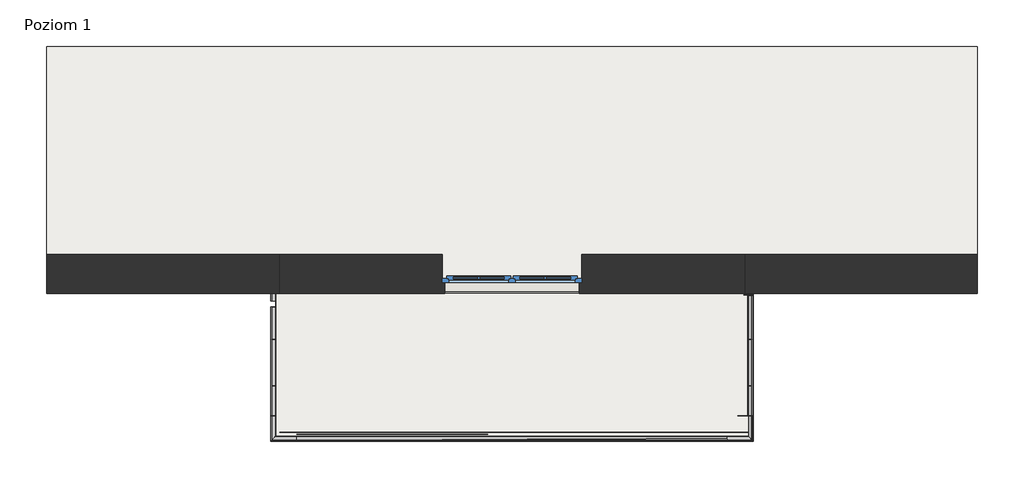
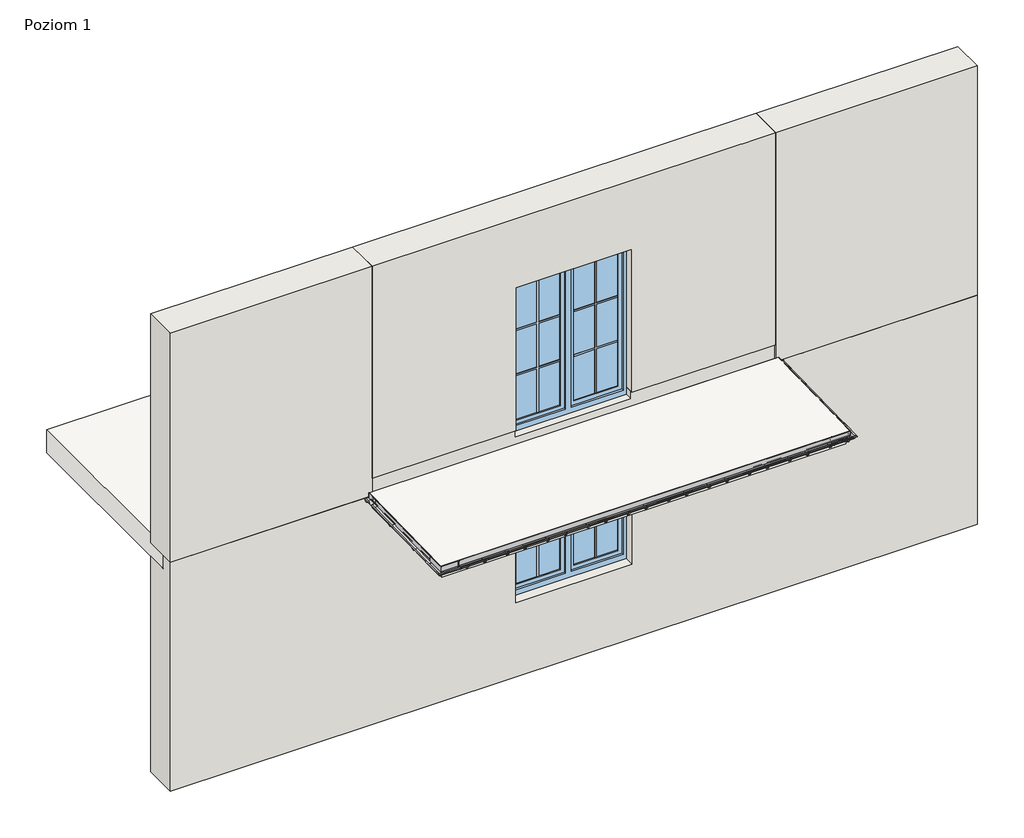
# One storey, part 1 of 4: 19 proxies, 5 walls, 3 slabs, 2 windows.
"""IFC4 building model written with IfcOpenShell, lengths in millimetres."""

from ifc_helpers import new_model, si_unit, frame, origin, place, context, project, spatial, polyline, outline, extrude, faceted_brep, transform, mapped, element, save
from components import generic_models_ec639326, generic_models_5d572d7a, generic_models_61f85244, generic_models_23ee7866, rynna_alu_r75_rynna_alu_r75_09d3fe56, rynna_alu_r75_rynna_alu_r75_ab9fa133, rynna_alu_r75_rynna_alu_r75_d5d98ae5, rynna_alu_r75_rynna_alu_r75_86e53b27, rynna_alu_r75_rynna_alu_r75_84c9ecab, rynna_alu_r75_rynna_alu_r75_d7d200d3, w30r_a8886554, w30r_bc3f7cf0, w30r_80883098, w30r_3a325fd7, w30r_4fe4cb9a, w30r_29956e02, w30r_471fe23f, w30r_580a4935, w30r_a8d028da, w30r_1e472981, window_150x150_51b7f79a, window_150x200_12b14935

model = new_model("IFC4")

# Units and contexts
model_context = context("Model", 3, world=origin())
ifc_project = project(units=[si_unit("LENGTHUNIT", "METRE", prefix="MILLI")], contexts=[model_context])

# Site, building, storey
site = spatial("IfcSite", under=ifc_project)
building = spatial("IfcBuilding", under=site)
storey = spatial("IfcBuildingStorey", under=building, Name="Poziom 1", Elevation=0.0)

# Proxies
placement = place(None, origin())
generic_models_shape = generic_models_ec639326(model_context)
element("IfcBuildingElementProxy", 1, Name="Odbojnik - OPW30R : Odbojnik - OPW30R", ObjectType="Odbojnik - OPW30R : Odbojnik - OPW30R", at=placement, inside=storey, context=model_context, shape_type="MappedRepresentation", body=[
    mapped(generic_models_shape, transform((-49671.8078512, 2486.8060813, -208.2583439), x_axis=(0.0, -0.9997639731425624, -0.021725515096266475), y_axis=(1.0000000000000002, 0.0, 0.0), z_axis=(0.0, -0.021725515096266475, 0.9997639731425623))),
])
element("IfcBuildingElementProxy", 2, Name="Odbojnik - OPW30R : Odbojnik - OPW30R", ObjectType="Odbojnik - OPW30R : Odbojnik - OPW30R", at=placement, inside=storey, context=model_context, shape_type="MappedRepresentation", body=[
    mapped(generic_models_shape, transform((-49671.9297926, 2333.1342418, -195.686409), x_axis=(0.0, -0.9997639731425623, -0.021725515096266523), y_axis=(1.0, 0.0, 0.0), z_axis=(0.0, -0.021725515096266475, 0.9997639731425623))),
])
generic_models_2_shape = generic_models_5d572d7a(model_context)
element("IfcBuildingElementProxy", 3, Name="Odbojnik przyścienny rynny : Odbojnik przyścienny rynny", ObjectType="Odbojnik przyścienny rynny : Odbojnik przyścienny rynny", at=placement, inside=storey, context=model_context, shape_type="MappedRepresentation", body=[
    mapped(generic_models_2_shape, transform((-44662.3088169, 2315.5114624, -183.1296888), x_axis=(0.0, 0.9997639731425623, 0.02172551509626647), y_axis=(-1.0, 0.0, 0.0), z_axis=(0.0, -0.021725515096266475, 0.9997639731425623))),
])
generic_models_3_shape = generic_models_61f85244(model_context)
element("IfcBuildingElementProxy", 4, Name="Odbojnik - OPW30R : Odbojnik - OPW30R", ObjectType="Odbojnik - OPW30R : Odbojnik - OPW30R", at=placement, inside=storey, context=model_context, shape_type="MappedRepresentation", body=[
    mapped(generic_models_3_shape, transform((-44729.5927141, 2315.7925172, -196.0632559), x_axis=(0.0, -0.9997639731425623, -0.02172551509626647), y_axis=(1.0, 0.0, 0.0), z_axis=(0.0, -0.021725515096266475, 0.9997639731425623))),
])
generic_models_4_shape = generic_models_23ee7866(model_context)
element("IfcBuildingElementProxy", 5, Name="Odbojnik przyścienny rynny : Odbojnik przyścienny rynny", ObjectType="Odbojnik przyścienny rynny : Odbojnik przyścienny rynny", at=placement, inside=storey, context=model_context, shape_type="MappedRepresentation", body=[
    mapped(generic_models_4_shape, transform((-49739.0917484, 2486.5250265, -195.3247768), x_axis=(0.0, 0.9997639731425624, 0.021725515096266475), y_axis=(-1.0000000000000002, 0.0, 0.0), z_axis=(0.0, -0.021725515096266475, 0.9997639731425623))),
])
element("IfcBuildingElementProxy", 6, Name="Odbojnik przyścienny rynny : Odbojnik przyścienny rynny", ObjectType="Odbojnik przyścienny rynny : Odbojnik przyścienny rynny", at=placement, inside=storey, context=model_context, shape_type="MappedRepresentation", body=[
    mapped(generic_models_4_shape, transform((-49739.2136899, 2332.853187, -182.7528419), x_axis=(0.0, 0.9997639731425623, 0.021725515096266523), y_axis=(-1.0, 0.0, 0.0), z_axis=(0.0, -0.021725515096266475, 0.9997639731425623))),
])
rynna_alu_r75_rynna_alu_r75_shape = rynna_alu_r75_rynna_alu_r75_09d3fe56(model_context)
element("IfcBuildingElementProxy", 7, Name="Rynna ALU R75 : Rynna ALU R75", ObjectType="Rynna ALU R75 : Rynna ALU R75", at=placement, inside=storey, context=model_context, shape_type="MappedRepresentation", body=[
    mapped(rynna_alu_r75_rynna_alu_r75_shape, transform((-47089.7513224, 830.0081496, -157.4212703), x_axis=(1.0, 0.0, 0.0), y_axis=(0.0, 0.9997639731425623, 0.021725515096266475), z_axis=(0.0, -0.021725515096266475, 0.9997639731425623))),
])
rynna_alu_r75_rynna_alu_r75_2_shape = rynna_alu_r75_rynna_alu_r75_ab9fa133(model_context)
element("IfcBuildingElementProxy", 8, Name="Rynna ALU R75 : Rynna ALU R75", ObjectType="Rynna ALU R75 : Rynna ALU R75", at=placement, inside=storey, context=model_context, shape_type="MappedRepresentation", body=[
    mapped(rynna_alu_r75_rynna_alu_r75_2_shape, transform((-44699.0311826, 1664.8781341, -139.2790078), x_axis=(0.0, 0.9997639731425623, 0.02172551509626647), y_axis=(-1.0, 0.0, 0.0), z_axis=(0.0, -0.021725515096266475, 0.9997639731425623))),
])
rynna_alu_r75_rynna_alu_r75_3_shape = rynna_alu_r75_rynna_alu_r75_d5d98ae5(model_context)
element("IfcBuildingElementProxy", 9, Name="Rynna ALU R75 : Rynna ALU R75", ObjectType="Rynna ALU R75 : Rynna ALU R75", at=placement, inside=storey, context=model_context, shape_type="MappedRepresentation", body=[
    mapped(rynna_alu_r75_rynna_alu_r75_3_shape, transform((-49702.3693827, 2449.5739013, -138.1383862), x_axis=(0.0, 0.9997639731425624, 0.021725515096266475), y_axis=(-1.0000000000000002, 0.0, 0.0), z_axis=(0.0, -0.021725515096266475, 0.9997639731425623))),
])
rynna_alu_r75_rynna_alu_r75_4_shape = rynna_alu_r75_rynna_alu_r75_86e53b27(model_context)
element("IfcBuildingElementProxy", 10, Name="Rynna ALU R75 : Rynna ALU R75", ObjectType="Rynna ALU R75 : Rynna ALU R75", at=placement, inside=storey, context=model_context, shape_type="MappedRepresentation", body=[
    mapped(rynna_alu_r75_rynna_alu_r75_4_shape, transform((-49702.5256327, 1601.0661115, -140.6656841), x_axis=(0.0, 0.9997639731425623, 0.021725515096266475), y_axis=(-1.0, 0.0, 0.0), z_axis=(0.0, -0.021725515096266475, 0.9997639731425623))),
])
rynna_alu_r75_rynna_alu_r75_5_shape = rynna_alu_r75_rynna_alu_r75_84c9ecab(model_context)
element("IfcBuildingElementProxy", 11, Name="Rynna ALU R75 : Rynna ALU R75", ObjectType="Rynna ALU R75 : Rynna ALU R75", at=placement, inside=storey, context=model_context, shape_type="MappedRepresentation", body=[
    mapped(rynna_alu_r75_rynna_alu_r75_5_shape, transform((-49702.4913242, 2290.9032419, -125.6750789), x_axis=(0.0, 0.9997639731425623, 0.021725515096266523), y_axis=(-1.0, 0.0, 0.0), z_axis=(0.0, -0.021725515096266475, 0.9997639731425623))),
])
rynna_alu_r75_rynna_alu_r75_6_shape = rynna_alu_r75_rynna_alu_r75_d7d200d3(model_context)
element("IfcBuildingElementProxy", 12, Name="Rynna ALU R75 : Rynna ALU R75", ObjectType="Rynna ALU R75 : Rynna ALU R75", at=placement, inside=storey, context=model_context, shape_type="MappedRepresentation", body=[
    mapped(rynna_alu_r75_rynna_alu_r75_6_shape, transform((-47200.3710311, 830.4035423, -157.4126781), x_axis=(0.9999999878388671, 0.00015591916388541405, 3.3882238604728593e-06), y_axis=(-0.00015595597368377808, 0.9997639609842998, 0.0217255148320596), z_axis=(0.0, -0.021725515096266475, 0.9997639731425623))),
])
w30r_shape = w30r_a8886554(model_context)
w30r_2_shape = w30r_bc3f7cf0(model_context)
w30r_3_shape = w30r_80883098(model_context)
element("IfcBuildingElementProxy", 13, Name="W30R Profil okapowy prosty z rynną : W30R", ObjectType="W30R Profil okapowy prosty z rynną : W30R", at=placement, inside=storey, context=model_context, shape_type="MappedRepresentation", body=[
    mapped(w30r_shape, transform((-49517.2513224, 795.2031655, -109.7), x_axis=(1.0, 0.0, 0.0), y_axis=(0.0, 0.9997639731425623, 0.021725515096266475), z_axis=(0.0, -0.021725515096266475, 0.9997639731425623))),
    mapped(w30r_2_shape, transform((-49517.2513224, 795.2031655, -109.7), x_axis=(1.0, 0.0, 0.0), y_axis=(0.0, 0.9997639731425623, 0.021725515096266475), z_axis=(0.0, -0.021725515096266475, 0.9997639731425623))),
    mapped(w30r_3_shape, transform((-49517.2513224, 795.2031655, -109.7), x_axis=(1.0, 0.0, 0.0), y_axis=(0.0, 0.9997639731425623, 0.021725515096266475), z_axis=(0.0, -0.021725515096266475, 0.9997639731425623))),
])
w30r_4_shape = w30r_3a325fd7(model_context)
element("IfcBuildingElementProxy", 14, Name="W30R Profil okapowy prosty z rynną : W30R", ObjectType="W30R Profil okapowy prosty z rynną : W30R", at=placement, inside=storey, context=model_context, shape_type="MappedRepresentation", body=[
    mapped(w30r_4_shape, transform((-44665.2711826, 1015.1512396, -104.9203867), x_axis=(0.0, 0.9997639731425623, 0.02172551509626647), y_axis=(-1.0, 0.0, 0.0), z_axis=(0.0, -0.021725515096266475, 0.9997639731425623))),
])
w30r_5_shape = w30r_4fe4cb9a(model_context)
element("IfcBuildingElementProxy", 15, Name="W30R Profil okapowy prosty z rynną : W30R", ObjectType="W30R Profil okapowy prosty z rynną : W30R", at=placement, inside=storey, context=model_context, shape_type="MappedRepresentation", body=[
    mapped(w30r_5_shape, transform((-49736.2856327, 1015.1512369, -104.9203867), x_axis=(0.0, 0.9997639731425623, 0.021725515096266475), y_axis=(-1.0, 0.0, 0.0), z_axis=(0.0, -0.021725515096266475, 0.9997639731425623))),
])
w30r_6_shape = w30r_29956e02(model_context)
element("IfcBuildingElementProxy", 16, Name="W30R Profil okapowy prosty z rynną : W30R", ObjectType="W30R Profil okapowy prosty z rynną : W30R", at=placement, inside=storey, context=model_context, shape_type="MappedRepresentation", body=[
    mapped(w30r_6_shape, transform((-49736.2513242, 2249.8597306, -78.0893759), x_axis=(0.0, 0.9997639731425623, 0.021725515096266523), y_axis=(-1.0, 0.0, 0.0), z_axis=(0.0, -0.021725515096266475, 0.9997639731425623))),
])
w30r_7_shape = w30r_471fe23f(model_context)
element("IfcBuildingElementProxy", 17, Name="W30R Profil okapowy prosty z rynną : W30R", ObjectType="W30R Profil okapowy prosty z rynną : W30R", at=placement, inside=storey, context=model_context, shape_type="MappedRepresentation", body=[
    mapped(w30r_7_shape, transform((-49736.1293827, 2413.5292098, -90.4440556), x_axis=(0.0, 0.9997639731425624, 0.021725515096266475), y_axis=(-1.0000000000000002, 0.0, 0.0), z_axis=(0.0, -0.021725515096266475, 0.9997639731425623))),
])
w30r_8_shape = w30r_580a4935(model_context)
element("IfcBuildingElementProxy", 18, Name="W30R Profil okapowy prosty z rynną : W30R", ObjectType="W30R Profil okapowy prosty z rynną : W30R", at=placement, inside=storey, context=model_context, shape_type="MappedRepresentation", body=[
    mapped(w30r_8_shape, transform((-49736.2856327, 2184.8750814, -79.5015342), x_axis=(0.0005278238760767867, 0.9997638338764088, 0.021725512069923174), y_axis=(-0.9999998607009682, 0.0005276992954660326, 1.1467245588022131e-05), z_axis=(0.0, -0.021725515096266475, 0.9997639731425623))),
])
w30r_9_shape = w30r_a8d028da(model_context)
w30r_10_shape = w30r_1e472981(model_context)
element("IfcBuildingElementProxy", 19, Name="W30R Profil okapowy prosty z rynną : W30R", ObjectType="W30R Profil okapowy prosty z rynną : W30R", at=placement, inside=storey, context=model_context, shape_type="MappedRepresentation", body=[
    mapped(w30r_shape, transform((-49736.2513224, 795.2031655, -109.7), x_axis=(0.9999999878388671, 0.00015591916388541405, 3.3882238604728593e-06), y_axis=(-0.00015595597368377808, 0.9997639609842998, 0.0217255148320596), z_axis=(0.0, -0.021725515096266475, 0.9997639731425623))),
    mapped(w30r_2_shape, transform((-49736.2513224, 795.2031655, -109.7), x_axis=(0.9999999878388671, 0.00015591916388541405, 3.3882238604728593e-06), y_axis=(-0.00015595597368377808, 0.9997639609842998, 0.0217255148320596), z_axis=(0.0, -0.021725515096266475, 0.9997639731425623))),
    mapped(w30r_9_shape, transform((-49736.2513224, 795.2031655, -109.7), x_axis=(0.9999999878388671, 0.00015591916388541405, 3.3882238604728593e-06), y_axis=(-0.00015595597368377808, 0.9997639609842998, 0.0217255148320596), z_axis=(0.0, -0.021725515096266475, 0.9997639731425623))),
    mapped(w30r_10_shape, transform((-49736.2513224, 795.2031655, -109.7), x_axis=(0.9999999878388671, 0.00015591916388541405, 3.3882238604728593e-06), y_axis=(-0.00015595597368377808, 0.9997639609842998, 0.0217255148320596), z_axis=(0.0, -0.021725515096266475, 0.9997639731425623))),
])

# Slabs
element("IfcSlab", 20, ObjectType="Balkon - wykończenie - posadzka ceramiczna", at=placement, inside=storey, context=model_context, shape_type="SweptSolid", body=[
    extrude(outline(polyline([(795.2031655, -125.7), (795.2031655, -109.7), (2332.2031655, -76.3), (2332.2031655, -92.3), (795.2031655, -125.7)])), frame((-49736.2513224, 0.0, 0.0), z_axis=(1.0, 0.0, 0.0), x_axis=(0.0, 1.0, 0.0)), (0.0, 0.0, 1.0), 5074.0),
])
element("IfcSlab", 21, ObjectType="Balkon - konstrukcja", at=placement, inside=storey, context=model_context, shape_type="Brep", body=[
    faceted_brep([(-49699.2513224, 832.2031655, -285.0), (-49699.2513224, 2332.2031655, -285.0), (-49699.2513224, 2440.2031655, -285.0), (-44699.2513224, 2440.2031655, -285.0), (-44699.2513224, 2332.2031655, -285.0), (-44699.2513224, 832.2031655, -285.0), (-49699.2513224, 832.2031655, -125.0), (-49699.2513224, 2354.2031655, -94.0488806), (-49699.2513224, 2440.2031655, -92.3), (-49699.2513224, 2440.2031655, -125.0), (-44699.2513224, 2440.2031655, -92.3), (-44699.2513224, 2440.2031655, -125.0), (-44699.2513224, 832.2031655, -125.0), (-44699.2513224, 2354.2031655, -94.0488806)], [[[0, 1, 2, 3, 4, 5]], [[2, 1, 0, 6, 7, 8, 9]], [[3, 2, 9, 8, 10, 11]], [[0, 5, 12, 6]], [[5, 4, 3, 11, 10, 13, 12]], [[12, 13, 10, 8, 7, 6]]]),
])
element("IfcSlab", 22, ObjectType="Strop", at=placement, inside=storey, context=model_context, shape_type="Brep", body=[
    faceted_brep([(-42199.2513224, 2487.2031655, -300.0), (-52199.2513224, 2487.2031655, -300.0), (-52199.2513224, 2752.2031655, -300.0), (-52199.2513224, 4987.2031655, -300.0), (-42199.2513224, 4987.2031655, -300.0), (-42199.2513224, 2752.2031655, -300.0), (-42199.2513224, 2487.2031655, 0.0), (-42199.2513224, 4987.2031655, 0.0), (-52199.2513224, 4987.2031655, 0.0), (-52199.2513224, 2487.2031655, 0.0), (-49699.2513224, 2487.2031655, 0.0), (-47949.2513224, 2487.2031655, 0.0), (-46449.2513224, 2487.2031655, 0.0), (-44699.2513224, 2487.2031655, 0.0), (-42199.2513224, 2487.2031655, -125.0), (-52199.2513224, 2487.2031655, -125.0)], [[[0, 1, 2, 3, 4, 5]], [[6, 7, 8, 9, 10, 11, 12, 13]], [[1, 0, 14, 6, 13, 12, 11, 10, 9, 15]], [[3, 2, 1, 15, 9, 8]], [[4, 3, 8, 7]], [[0, 5, 4, 7, 6, 14]]]),
])

# Walls
element("IfcWall", 23, ObjectType="Porotherm P+W 25 + o15 + t", at=placement, inside=storey, context=model_context, shape_type="Brep", body=[
    faceted_brep([(-52199.2513224, 2332.2031655, -3125.0), (-42199.2513224, 2332.2031655, -3125.0), (-42199.2513224, 2332.2031655, -125.0), (-44699.2513224, 2332.2031655, -125.0), (-44699.2513224, 2332.2031655, -285.0), (-49699.2513224, 2332.2031655, -285.0), (-49699.2513224, 2332.2031655, -125.0), (-52199.2513224, 2332.2031655, -125.0), (-46479.2513224, 2332.2031655, -680.0), (-46479.2513224, 2332.2031655, -2150.0), (-47919.2513224, 2332.2031655, -2150.0), (-47919.2513224, 2332.2031655, -680.0), (-42199.2513224, 2752.2031655, -3125.0), (-52199.2513224, 2752.2031655, -3125.0), (-52199.2513224, 2752.2031655, -300.0), (-42199.2513224, 2752.2031655, -300.0), (-46449.2513224, 2752.2031655, -2150.0), (-46449.2513224, 2752.2031655, -650.0), (-47949.2513224, 2752.2031655, -650.0), (-47949.2513224, 2752.2031655, -2150.0), (-42199.2513224, 2487.2031655, -300.0), (-42199.2513224, 2487.2031655, -125.0), (-44699.2513224, 2487.2031655, -125.0), (-49699.2513224, 2487.2031655, -125.0), (-52199.2513224, 2487.2031655, -125.0), (-49699.2513224, 2440.2031655, -125.0), (-44699.2513224, 2440.2031655, -125.0), (-52199.2513224, 2487.2031655, -300.0), (-46449.2513224, 2452.2031655, -650.0), (-46449.2513224, 2452.2031655, -2150.0), (-46479.2513224, 2452.2031655, -680.0), (-46479.2513224, 2452.2031655, -2150.0), (-44699.2513224, 2440.2031655, -285.0), (-49699.2513224, 2440.2031655, -285.0), (-47949.2513224, 2452.2031655, -650.0), (-47949.2513224, 2452.2031655, -2150.0), (-47919.2513224, 2452.2031655, -2150.0), (-47919.2513224, 2452.2031655, -680.0)], [[[0, 1, 2, 3, 4, 5, 6, 7], [8, 9, 10, 11]], [[12, 13, 14, 15], [16, 17, 18, 19]], [[1, 0, 13, 12]], [[2, 1, 12, 15, 20, 21]], [[2, 21, 22, 23, 24, 7, 6, 25, 26, 3]], [[0, 7, 24, 27, 14, 13]], [[28, 17, 16, 29]], [[8, 30, 31, 9]], [[27, 20, 15, 14]], [[20, 27, 24, 23, 22, 21]], [[32, 33, 5, 4]], [[5, 33, 25, 6]], [[33, 32, 26, 25]], [[32, 4, 3, 26]], [[17, 28, 34, 18]], [[29, 16, 19, 35, 36, 10, 9, 31]], [[34, 28, 29, 31, 30, 37, 36, 35]], [[34, 35, 19, 18]], [[30, 8, 11, 37]], [[10, 36, 37, 11]]]),
])
element("IfcWall", 24, ObjectType="Porotherm P+W 25 + o15 + t", at=placement, inside=storey, context=model_context, shape_type="Brep", body=[
    faceted_brep([(-52199.2513224, 2332.2031655, -125.0), (-49699.2513224, 2332.2031655, -125.0), (-49699.2513224, 2332.2031655, 100.0), (-49699.2513224, 2332.2031655, 2875.0), (-52199.2513224, 2332.2031655, 2875.0), (-52199.2513224, 2752.2031655, -125.0), (-52199.2513224, 2752.2031655, 2875.0), (-49699.2513224, 2752.2031655, 2875.0), (-49699.2513224, 2752.2031655, 100.0), (-49699.2513224, 2752.2031655, 0.0), (-49699.2513224, 2752.2031655, -125.0), (-52199.2513224, 2487.2031655, -125.0), (-49699.2513224, 2487.2031655, -125.0), (-49699.2513224, 2440.2031655, -125.0)], [[[0, 1, 2, 3, 4]], [[5, 6, 7, 8, 9, 10]], [[1, 0, 11, 5, 10, 12, 13]], [[4, 3, 7, 6]], [[0, 4, 6, 5, 11]], [[1, 13, 12, 10, 9, 8, 7, 3, 2]]]),
])
element("IfcWall", 25, ObjectType="Porotherm P+W 25 + o15 + t", at=placement, inside=storey, context=model_context, shape_type="Brep", body=[
    faceted_brep([(-44699.2513224, 2332.2031655, 2875.0), (-44699.2513224, 2332.2031655, 100.0), (-44699.2513224, 2332.2031655, -125.0), (-42199.2513224, 2332.2031655, -125.0), (-42199.2513224, 2332.2031655, 2875.0), (-44699.2513224, 2752.2031655, -125.0), (-44699.2513224, 2752.2031655, 0.0), (-44699.2513224, 2752.2031655, 100.0), (-44699.2513224, 2752.2031655, 2875.0), (-42199.2513224, 2752.2031655, 2875.0), (-42199.2513224, 2752.2031655, -125.0), (-44699.2513224, 2440.2031655, -125.0), (-44699.2513224, 2487.2031655, -125.0), (-42199.2513224, 2487.2031655, -125.0)], [[[0, 1, 2, 3, 4]], [[5, 6, 7, 8, 9, 10]], [[3, 2, 11, 12, 5, 10, 13]], [[4, 3, 13, 10, 9]], [[0, 4, 9, 8]], [[0, 8, 7, 6, 5, 12, 11, 2, 1]]]),
])
element("IfcWall", 26, ObjectType="Porotherm P+W 25 + o12 + pł ceramiczne", at=placement, inside=storey, context=model_context, shape_type="Brep", body=[
    faceted_brep([(-44699.2513224, 2354.2031655, 100.0), (-46479.2513224, 2354.2031655, 100.0), (-46479.2513224, 2354.2031655, 0.0), (-47919.2513224, 2354.2031655, 0.0), (-47919.2513224, 2354.2031655, 100.0), (-49699.2513224, 2354.2031655, 100.0), (-49699.2513224, 2354.2031655, -94.0488806), (-44699.2513224, 2354.2031655, -94.0488806), (-49699.2513224, 2752.2031655, 0.0), (-49699.2513224, 2752.2031655, 100.0), (-47949.2513224, 2752.2031655, 100.0), (-47949.2513224, 2752.2031655, 0.0), (-44699.2513224, 2752.2031655, 100.0), (-44699.2513224, 2752.2031655, 0.0), (-46449.2513224, 2752.2031655, 0.0), (-46449.2513224, 2752.2031655, 100.0), (-49699.2513224, 2487.2031655, -125.0), (-44699.2513224, 2487.2031655, -125.0), (-44699.2513224, 2440.2031655, -125.0), (-49699.2513224, 2440.2031655, -125.0), (-44699.2513224, 2440.2031655, -92.3), (-44699.2513224, 2487.2031655, 0.0), (-46449.2513224, 2452.2031655, 100.0), (-46479.2513224, 2452.2031655, 100.0), (-47919.2513224, 2452.2031655, 100.0), (-47949.2513224, 2452.2031655, 100.0), (-49699.2513224, 2487.2031655, 0.0), (-49699.2513224, 2440.2031655, -92.3), (-47949.2513224, 2487.2031655, 0.0), (-46449.2513224, 2487.2031655, 0.0), (-47949.2513224, 2452.2031655, 0.0), (-47919.2513224, 2452.2031655, 0.0), (-46479.2513224, 2452.2031655, 0.0), (-46449.2513224, 2452.2031655, 0.0)], [[[0, 1, 2, 3, 4, 5, 6, 7]], [[8, 9, 10, 11]], [[12, 13, 14, 15]], [[16, 17, 18, 19]], [[12, 0, 7, 20, 18, 17, 21, 13]], [[0, 12, 15, 22, 23, 1]], [[9, 5, 4, 24, 25, 10]], [[5, 9, 8, 26, 16, 19, 27, 6]], [[8, 11, 28, 26]], [[13, 21, 29, 14]], [[17, 16, 26, 28, 29, 21]], [[20, 27, 19, 18]], [[27, 20, 7, 6]], [[30, 31, 3, 2, 32, 33, 29, 28]], [[31, 30, 25, 24]], [[33, 32, 23, 22]], [[33, 22, 15, 14, 29]], [[25, 30, 28, 11, 10]], [[32, 2, 1, 23]], [[3, 31, 24, 4]]]),
])
element("IfcWall", 27, ObjectType="Porotherm P+W 25 + o15 + t", at=placement, inside=storey, context=model_context, shape_type="Brep", body=[
    faceted_brep([(-44699.2513224, 2332.2031655, 100.0), (-44699.2513224, 2332.2031655, 2875.0), (-49699.2513224, 2332.2031655, 2875.0), (-49699.2513224, 2332.2031655, 100.0), (-47919.2513224, 2332.2031655, 100.0), (-47919.2513224, 2332.2031655, 1970.0), (-46479.2513224, 2332.2031655, 1970.0), (-46479.2513224, 2332.2031655, 100.0), (-44699.2513224, 2752.2031655, 2875.0), (-44699.2513224, 2752.2031655, 100.0), (-46449.2513224, 2752.2031655, 100.0), (-46449.2513224, 2752.2031655, 2000.0), (-47949.2513224, 2752.2031655, 2000.0), (-47949.2513224, 2752.2031655, 100.0), (-49699.2513224, 2752.2031655, 100.0), (-49699.2513224, 2752.2031655, 2875.0), (-49699.2513224, 2354.2031655, 100.0), (-47949.2513224, 2452.2031655, 100.0), (-47919.2513224, 2452.2031655, 100.0), (-47919.2513224, 2354.2031655, 100.0), (-44699.2513224, 2354.2031655, 100.0), (-46479.2513224, 2354.2031655, 100.0), (-46479.2513224, 2452.2031655, 100.0), (-46449.2513224, 2452.2031655, 100.0), (-46449.2513224, 2452.2031655, 2000.0), (-46479.2513224, 2452.2031655, 1970.0), (-47949.2513224, 2452.2031655, 2000.0), (-47919.2513224, 2452.2031655, 1970.0)], [[[0, 1, 2, 3, 4, 5, 6, 7]], [[8, 9, 10, 11, 12, 13, 14, 15]], [[3, 16, 14, 13, 17, 18, 19, 4]], [[9, 20, 0, 7, 21, 22, 23, 10]], [[1, 0, 20, 9, 8]], [[2, 1, 8, 15]], [[3, 2, 15, 14, 16]], [[24, 11, 10, 23]], [[6, 25, 22, 21, 7]], [[26, 12, 11, 24]], [[26, 24, 23, 22, 25, 27, 18, 17]], [[12, 26, 17, 13]], [[27, 25, 6, 5]], [[27, 5, 4, 19, 18]]]),
])

# Windows
window_150x150_shape = window_150x150_51b7f79a(model_context)
element("IfcWindow", 28, ObjectType="OKNO_2X_W_SZ : 150x150", at=placement, inside=storey, context=model_context, shape_type="MappedRepresentation", body=[
    mapped(window_150x150_shape, transform((-47199.2513224, 2542.2031655, -3000.0), x_axis=(-1.0, 0.0, 0.0), y_axis=(0.0, -1.0, 0.0), z_axis=(0.0, 0.0, 1.0))),
])
window_150x200_shape = window_150x200_12b14935(model_context)
element("IfcWindow", 29, ObjectType="OKNO_2X_W_SZ : 150x200", at=placement, inside=storey, context=model_context, shape_type="MappedRepresentation", body=[
    mapped(window_150x200_shape, transform((-47199.2513224, 2542.2031655, -850.0), x_axis=(-1.0, 0.0, 0.0), y_axis=(0.0, -1.0, 0.0), z_axis=(0.0, 0.0, 1.0))),
])

save(model, "model.ifc")
